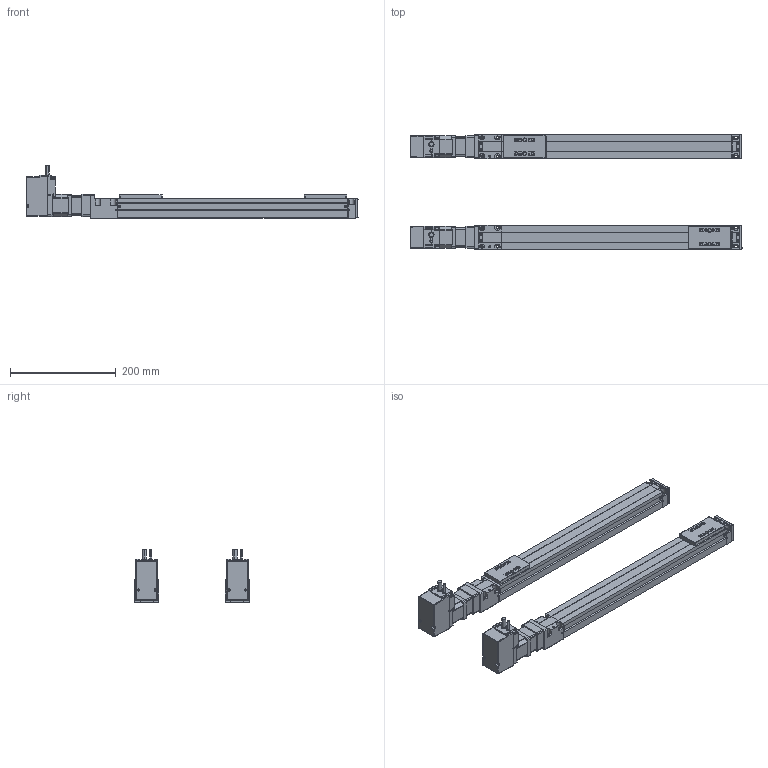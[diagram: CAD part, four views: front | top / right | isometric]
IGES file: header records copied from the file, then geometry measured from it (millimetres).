
Start section: IMSI TurboCAD v14.0
Global section: author: NULL; organization: NULL; date: 20110316.101039; units: millimetre
Bounding box: 628.67 x 216.56 x 100.06 mm (x, y, z)
Surface area: 460921.2 mm2 (no closed solid volume)
Topology: 0 solids, 0 shells, 4173 faces, 22406 edges, 22334 vertices
Faces by surface type: revolution 2020, extrusion 1957, bspline 196
